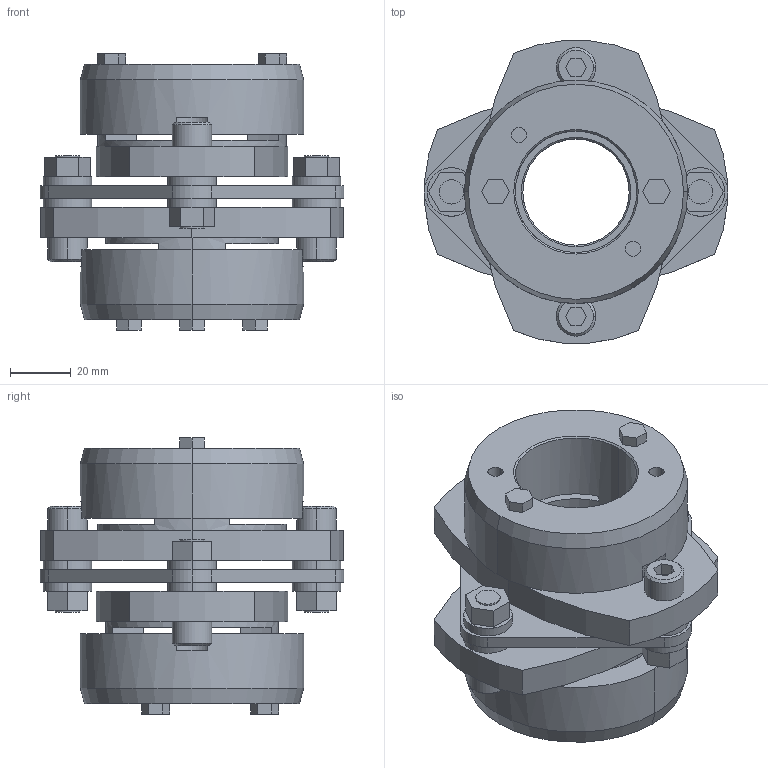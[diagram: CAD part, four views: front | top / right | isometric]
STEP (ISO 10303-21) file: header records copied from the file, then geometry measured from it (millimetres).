
FILE_DESCRIPTION((''),'2;1');
FILE_NAME('LCS-100T7-35×40.stp','2011-09-09T08:25:05',(''),(''),'AutoCAD STEP 2000i','AutoCAD 2000i',', , ');
FILE_SCHEMA(('CONFIG_CONTROL_DESIGN'));
Length unit declared in the file: millimetre
Products named in the file (10): LCS-100T7-35×38; 忣兜1; LC100T7-T038; LC100T7-T035-1; LC100T7-T035; LC100T7-T030; LC100T7-T025; LC100T7-T022-1; LC100T7-T022; LCS100-ITA
Assembly tree (9 placements, depth 2):
  LCS-100T7-35×38
    忣兜1
    LC100T7-T038
    LC100T7-T035-1
    LC100T7-T035
    LC100T7-T030
    LC100T7-T025
    LC100T7-T022-1
    LC100T7-T022
    LCS100-ITA
Bounding box: 100 x 99.93 x 91 mm (x, y, z)
Volume: 265577.7 mm3; surface area: 66256.2 mm2
Topology: 1 solids, 1 shells, 233 faces, 574 edges, 376 vertices
Faces by surface type: plane 129, cylinder 84, cone 20
Entity records: 7177 total; most frequent: DIRECTION 1272, CARTESIAN_POINT 1193, ORIENTED_EDGE 1148, EDGE_CURVE 574, AXIS2_PLACEMENT_3D 455, VERTEX_POINT 376, VECTOR 362, LINE 362
